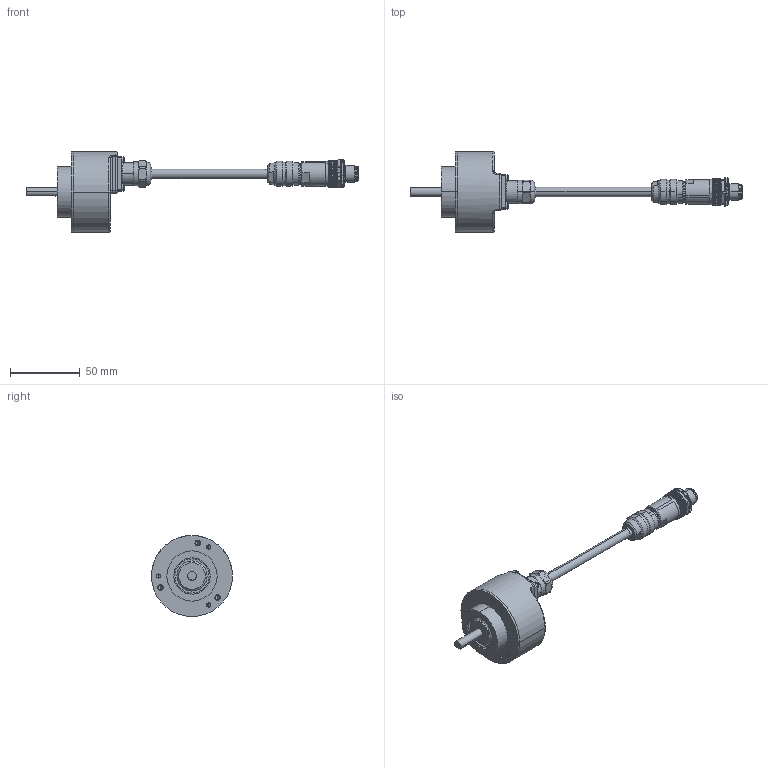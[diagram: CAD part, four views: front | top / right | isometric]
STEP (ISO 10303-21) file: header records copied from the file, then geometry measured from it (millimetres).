
FILE_DESCRIPTION (( 'STEP AP203' ), '1' );
FILE_NAME ('K58I.OXX.XXXXX.XS1C51B.6XA13.XXXX.step', '2025-12-08T15:18:17', ( '' ), ( '' ), 'SwSTEP 2.0', 'SolidWorks 2021', '' );
FILE_SCHEMA (( 'CONFIG_CONTROL_DESIGN' ));
Length unit declared in the file: millimetre
Products named in the file (1): K58I.OXX.XXXXX.XS1C51B.6XA13.XXXX
Bounding box: 237.9 x 58 x 58 mm (x, y, z)
Volume: 148242.8 mm3; surface area: 39831.2 mm2
Topology: 20 solids, 20 shells, 1479 faces, 3594 edges, 2182 vertices
Faces by surface type: plane 528, cylinder 520, cone 310, bspline 62, torus 41, sphere 18
Entity records: 46382 total; most frequent: CARTESIAN_POINT 12739, ORIENTED_EDGE 7140, DIRECTION 6945, EDGE_CURVE 3570, AXIS2_PLACEMENT_3D 2789, VERTEX_POINT 2181, EDGE_LOOP 1547, ADVANCED_FACE 1479
